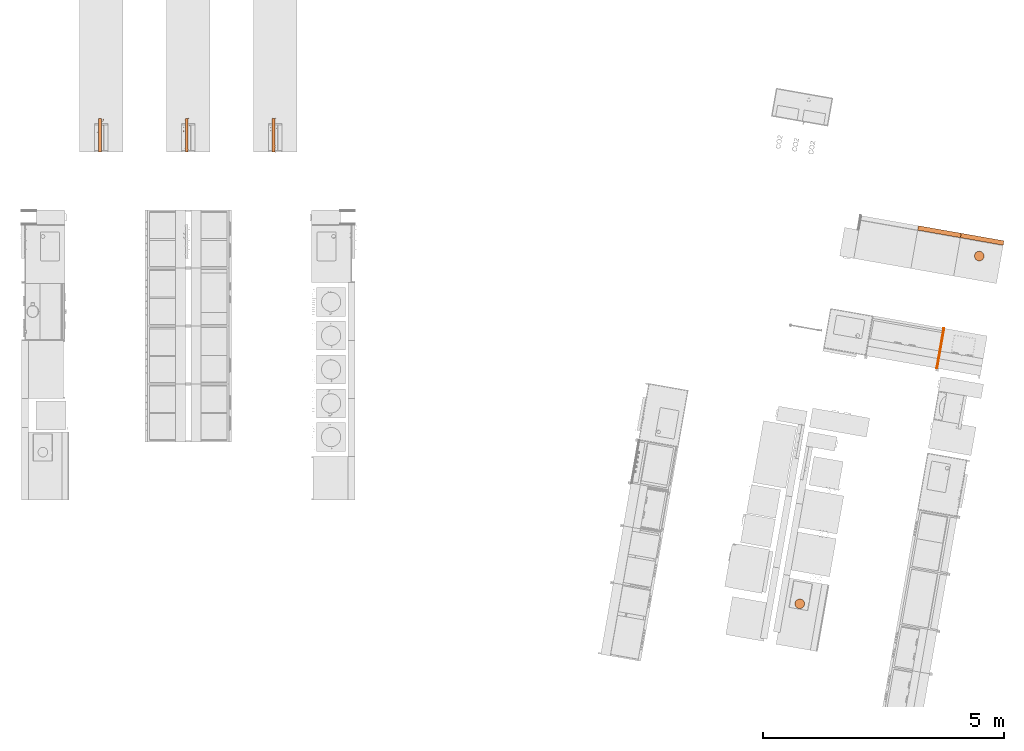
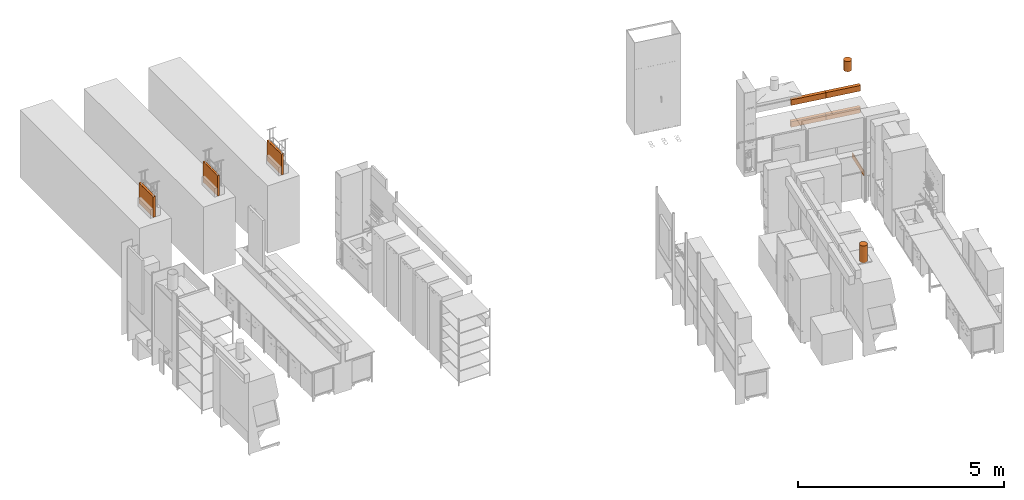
# One storey, part 37 of 43: 10 proxies.
"""IFC2X3 building model written with IfcOpenShell, lengths in metres."""

from ifc_helpers import new_model, entity, si_unit, converted_unit, derived_unit, direction, frame, frame_2d, origin, origin_2d_with_axis, place, context, subcontext, project, spatial, rectangle, circle, extrude, face_set, surface_model, source, transform, mapped, material, type_object, type_shapes, element, save


model = new_model("IFC2X3")

# Units and contexts
model_context = context("Model", 3, precision=1e-05, world=origin(), true_north=direction((6.12303176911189e-17, 1.0)))
body_context = subcontext(model_context, "Body", "Model", "MODEL_VIEW")
ifc_project = project(units=[si_unit("LENGTHUNIT", "METRE"), si_unit("AREAUNIT", "SQUARE_METRE"), si_unit("VOLUMEUNIT", "CUBIC_METRE"), converted_unit("PLANEANGLEUNIT", "DEGREE", entity("IfcRatioMeasure", 0.0174532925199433), si_unit("PLANEANGLEUNIT", "RADIAN"), dimensions=[0, 0, 0, 0, 0, 0, 0]), si_unit("MASSUNIT", "GRAM", prefix="KILO"), derived_unit("MASSDENSITYUNIT", [(si_unit("MASSUNIT", "GRAM", prefix="KILO"), 1), (si_unit("LENGTHUNIT", "METRE"), -3)]), derived_unit("MOMENTOFINERTIAUNIT", [(si_unit("LENGTHUNIT", "METRE"), 4)]), si_unit("TIMEUNIT", "SECOND"), si_unit("FREQUENCYUNIT", "HERTZ"), si_unit("THERMODYNAMICTEMPERATUREUNIT", "DEGREE_CELSIUS"), derived_unit("THERMALTRANSMITTANCEUNIT", [(si_unit("MASSUNIT", "GRAM", prefix="KILO"), 1), (si_unit("THERMODYNAMICTEMPERATUREUNIT", "KELVIN"), -1), (si_unit("TIMEUNIT", "SECOND"), -3)]), derived_unit("VOLUMETRICFLOWRATEUNIT", [(si_unit("LENGTHUNIT", "METRE"), 3), (si_unit("TIMEUNIT", "SECOND"), -1)]), si_unit("ELECTRICCURRENTUNIT", "AMPERE"), si_unit("ELECTRICVOLTAGEUNIT", "VOLT"), si_unit("POWERUNIT", "WATT"), si_unit("FORCEUNIT", "NEWTON", prefix="KILO"), si_unit("ILLUMINANCEUNIT", "LUX"), si_unit("LUMINOUSFLUXUNIT", "LUMEN"), si_unit("LUMINOUSINTENSITYUNIT", "CANDELA"), derived_unit("USERDEFINED", [(si_unit("MASSUNIT", "GRAM", prefix="KILO"), -1), (si_unit("LENGTHUNIT", "METRE"), -2), (si_unit("TIMEUNIT", "SECOND"), 3), (si_unit("LUMINOUSFLUXUNIT", "LUMEN"), 1)]), derived_unit("LINEARVELOCITYUNIT", [(si_unit("LENGTHUNIT", "METRE"), 1), (si_unit("TIMEUNIT", "SECOND"), -1)]), si_unit("PRESSUREUNIT", "PASCAL"), derived_unit("USERDEFINED", [(si_unit("LENGTHUNIT", "METRE"), -2), (si_unit("MASSUNIT", "GRAM", prefix="KILO"), 1), (si_unit("TIMEUNIT", "SECOND"), -2)]), derived_unit("LINEARFORCEUNIT", [(si_unit("MASSUNIT", "GRAM", prefix="KILO"), 1), (si_unit("LENGTHUNIT", "METRE"), 1), (si_unit("TIMEUNIT", "SECOND"), -2), (si_unit("LENGTHUNIT", "METRE"), -1)]), derived_unit("PLANARFORCEUNIT", [(si_unit("MASSUNIT", "GRAM", prefix="KILO"), 1), (si_unit("LENGTHUNIT", "METRE"), 1), (si_unit("TIMEUNIT", "SECOND"), -2), (si_unit("LENGTHUNIT", "METRE"), -2)])], contexts=[model_context])

# Site, building, storey
site_placement = place(None, origin())
site = spatial("IfcSite", under=ifc_project, at=site_placement, Name="Default", CompositionType="ELEMENT")
building_placement = place(site_placement, origin())
building = spatial("IfcBuilding", under=site, at=building_placement, CompositionType="ELEMENT")
storey_placement = place(building_placement, frame((0.0, 0.0, 3.0)))
storey = spatial("IfcBuildingStorey", under=building, at=storey_placement, Name="01 OG", CompositionType="ELEMENT", Elevation=3.0)

# Proxies
ifc_material_1 = material(Name="dh_Weiß")
building_element_proxy_type_1 = type_object("IfcBuildingElementProxyType", Name="dh_Einzel_ Elektrokanal:EK 90", PredefinedType="NOTDEFINED", material=ifc_material_1)
shared_shape_1 = source(origin(), body_context, "Body", "SweptSolid", [
    extrude(rectangle(XDim=0.900000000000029, YDim=0.093, at=frame_2d((-4.16333634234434e-16, -1.73472347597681e-17), x_axis=(1.0, 0.0))), frame((-0.149999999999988, 0.2535, 1.24999999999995)), (0.0, 0.0, 1.0), 0.00499999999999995),
    extrude(rectangle(XDim=0.093, YDim=0.900000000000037, at=frame_2d((0.0155, -8.32667268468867e-17), x_axis=(1.0, 0.0))), frame((-0.149999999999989, 0.269, 1.40999999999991), z_axis=(0.0, 0.0, 1.0), x_axis=(0.0, -1.0, 0.0)), (0.0, 0.0, 1.0), 0.00499999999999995),
    extrude(rectangle(XDim=0.9, YDim=0.093, at=frame_2d((0.0, 1.73472347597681e-17), x_axis=(1.0, 0.0))), frame((-0.15, 0.2535, 1.25499999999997), z_axis=(0.0, 0.0, 1.0), x_axis=(-1.0, 0.0, 0.0)), (0.0, 0.0, 1.0), 0.154999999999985),
])
type_shapes(building_element_proxy_type_1, [shared_shape_1])
for number, where, z_axis, x_axis in (
    (1, (29.2645147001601, 15.6021625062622, 0.0), (0.0, 0.0, 1.0), (0.984807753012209, -0.173648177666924, 0.0)),
    (2, (30.1508416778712, 15.4458791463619, 0.0), (0.0, 0.0, 1.0), (0.984807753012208, -0.17364817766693, 0.0)),
):
    element("IfcBuildingElementProxy", number, at=place(storey_placement, frame(where, z_axis=z_axis, x_axis=x_axis)), inside=storey, type_object=building_element_proxy_type_1, material=ifc_material_1, Name="dh_Einzel_ Elektrokanal:EK 90", ObjectType="dh_Einzel_ Elektrokanal:EK 90", context=body_context, shape_type="MappedRepresentation", body=[
        mapped(shared_shape_1, transform((0.0, 0.0, 0.0), scale=1.0)),
    ])
building_element_proxy_type_2 = type_object("IfcBuildingElementProxyType", Name="dh_Einzel_ Elektrokanal:EK 90", PredefinedType="NOTDEFINED", material=ifc_material_1)
shared_shape_2 = source(origin(), body_context, "Body", "SweptSolid", [
    extrude(rectangle(XDim=0.900000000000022, YDim=0.093, at=frame_2d((1.4432899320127e-15, -1.73472347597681e-17), x_axis=(1.0, 0.0))), frame((-0.149999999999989, 0.2535, 0.599999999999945)), (0.0, 0.0, 1.0), 0.00500000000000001),
    extrude(rectangle(XDim=0.093, YDim=0.90000000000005, at=frame_2d((0.0155, -3.33066907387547e-15), x_axis=(1.0, 0.0))), frame((-0.149999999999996, 0.269, 0.759999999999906), z_axis=(0.0, 0.0, 1.0), x_axis=(0.0, -1.0, 0.0)), (0.0, 0.0, 1.0), 0.00499999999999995),
    extrude(rectangle(XDim=0.9, YDim=0.093, at=frame_2d((0.0, 1.73472347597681e-17), x_axis=(1.0, 0.0))), frame((-0.15, 0.2535, 0.604999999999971), z_axis=(0.0, 0.0, 1.0), x_axis=(-1.0, 0.0, 0.0)), (0.0, 0.0, 1.0), 0.154999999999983),
])
type_shapes(building_element_proxy_type_2, [shared_shape_2])
for number, where, z_axis, x_axis in (
    (3, (29.2645147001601, 15.6021625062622, 0.0), (0.0, 0.0, 1.0), (0.984807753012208, -0.173648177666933, 0.0)),
    (4, (30.1508416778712, 15.4458791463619, 0.0), (0.0, 0.0, 1.0), (0.984807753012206, -0.173648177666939, 0.0)),
):
    element("IfcBuildingElementProxy", number, at=place(storey_placement, frame(where, z_axis=z_axis, x_axis=x_axis)), inside=storey, type_object=building_element_proxy_type_2, material=ifc_material_1, Name="dh_Einzel_ Elektrokanal:EK 90", ObjectType="dh_Einzel_ Elektrokanal:EK 90", context=body_context, shape_type="MappedRepresentation", body=[
        mapped(shared_shape_2, transform((0.0, 0.0, 0.0), scale=1.0)),
    ])
building_element_proxy_type_3 = type_object("IfcBuildingElementProxyType", Name="dh_Blende:dh_Blende", PredefinedType="NOTDEFINED", material=ifc_material_1)
shared_shape_3 = source(origin(), body_context, "Body", "SweptSolid", [
    extrude(rectangle(XDim=0.840000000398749, YDim=0.02, at=origin_2d_with_axis()), frame((0.0, -0.00999999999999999, 0.0), z_axis=(0.0, 0.0, 1.0), x_axis=(-1.0, 0.0, 0.0)), (0.0, 0.0, 1.0), 0.15),
])
type_shapes(building_element_proxy_type_3, [shared_shape_3])
proxy_1_placement = place(storey_placement, frame((29.1918228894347, 13.4622756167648, 0.75), z_axis=(0.0, 0.0, 1.0), x_axis=(-0.17364817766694, -0.984807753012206, 0.0)))
element("IfcBuildingElementProxy", 5, at=proxy_1_placement, inside=storey, type_object=building_element_proxy_type_3, material=ifc_material_1, Name="dh_Blende:dh_Blende", ObjectType="dh_Blende:dh_Blende", context=body_context, shape_type="MappedRepresentation", body=[
    mapped(shared_shape_3, transform((0.0, 0.0, 0.0), scale=1.0)),
])
ifc_material_2 = material(Name="dh_Chrom")
building_element_proxy_type_4 = type_object("IfcBuildingElementProxyType", Name="dh_Geräteabluft:dh_Geräteabluft", PredefinedType="NOTDEFINED", material=ifc_material_2)
shared_shape_4 = source(origin(), body_context, "Body", "SweptSolid", [
    extrude(circle(Radius=0.1, at=frame_2d((-1.25950294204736e-21, -1.69197988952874e-16), x_axis=(1.0, 0.0))), frame((0.0, -0.3, 2.2)), (0.0, 0.0, 1.0), 0.300000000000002),
])
type_shapes(building_element_proxy_type_4, [shared_shape_4])
proxy_2_placement = place(storey_placement, frame((30.0378501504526, 15.6688879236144, 0.0), z_axis=(0.0, 0.0, 1.0), x_axis=(0.984807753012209, -0.173648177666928, 0.0)))
element("IfcBuildingElementProxy", 6, at=proxy_2_placement, inside=storey, type_object=building_element_proxy_type_4, material=ifc_material_2, Name="dh_Geräteabluft:dh_Geräteabluft", ObjectType="dh_Geräteabluft:dh_Geräteabluft", context=body_context, shape_type="MappedRepresentation", body=[
    mapped(shared_shape_4, transform((0.0, 0.0, 0.0), scale=1.0)),
])
building_element_proxy_type_5 = type_object("IfcBuildingElementProxyType", Name="dh_Geräteabluft:dh_Geräteabluft", PredefinedType="NOTDEFINED", material=ifc_material_2)
shared_shape_5 = source(origin(), body_context, "Body", "SweptSolid", [
    extrude(circle(Radius=0.1, at=frame_2d((-1.25950294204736e-21, -1.69197988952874e-16), x_axis=(1.0, 0.0))), frame((0.0, -0.3, 2.2)), (0.0, 0.0, 1.0), 0.500000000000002),
])
type_shapes(building_element_proxy_type_5, [shared_shape_5])
proxy_3_placement = place(storey_placement, frame((25.972889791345, 8.22162015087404, 0.0), z_axis=(0.0, 0.0, 1.0), x_axis=(0.173648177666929, 0.984807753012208, 0.0)))
element("IfcBuildingElementProxy", 7, at=proxy_3_placement, inside=storey, type_object=building_element_proxy_type_5, material=ifc_material_2, Name="dh_Geräteabluft:dh_Geräteabluft", ObjectType="dh_Geräteabluft:dh_Geräteabluft", context=body_context, shape_type="MappedRepresentation", body=[
    mapped(shared_shape_5, transform((0.0, 0.0, 0.0), scale=1.0)),
])
ifc_material_3 = material(Name="dh_Stellfläche")
building_element_proxy_type_6 = type_object("IfcBuildingElementProxyType", Name="dh_Gerät_Stellfläche Bestand:Nutzergerät", PredefinedType="NOTDEFINED", material=ifc_material_3)
shared_shape_6 = source(origin(), body_context, "Body", "SurfaceModel", [
    surface_model("IfcFaceBasedSurfaceModel", [(-0.355113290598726, -0.0453817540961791, 0.615000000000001), (-0.35670056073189, -0.0470458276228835, 0.615000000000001), (-0.346946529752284, -0.0567998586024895, 0.615000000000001), (-0.332277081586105, -0.0616384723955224, 0.615000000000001), (-0.312948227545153, -0.0616384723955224, 0.615000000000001), (-0.298278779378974, -0.0567998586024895, 0.615000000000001), (-0.288166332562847, -0.0466618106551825, 0.615000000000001), (-0.288166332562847, -0.0314547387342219, 0.615000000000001), (-0.29308174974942, -0.0214446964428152, 0.615000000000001), (-0.298073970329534, -0.0163500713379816, 0.615000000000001), (-0.30790480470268, -0.0115114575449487, 0.615000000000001), (-0.336450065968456, -0.00188543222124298, 0.615000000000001), (-0.345692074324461, 0.00295318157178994, 0.615000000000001), (-0.350197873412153, 0.00745898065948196, 0.615000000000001), (-0.354857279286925, 0.0166497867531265, 0.615000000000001), (-0.354857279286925, 0.0255845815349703, 0.615000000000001), (-0.345820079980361, 0.0347241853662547, 0.615000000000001), (-0.331944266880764, 0.0393579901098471, 0.615000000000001), (-0.313204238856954, 0.0393579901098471, 0.615000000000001), (-0.299328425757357, 0.0347241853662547, 0.615000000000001), (-0.290112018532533, 0.0252005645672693, 0.615000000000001), (-0.288447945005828, 0.0268646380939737, 0.615000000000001), (-0.298278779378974, 0.0366186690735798, 0.615000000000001), (-0.312948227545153, 0.041585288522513, 0.615000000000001), (-0.332277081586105, 0.041585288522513, 0.615000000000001), (-0.346946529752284, 0.0366186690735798, 0.615000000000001), (-0.356982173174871, 0.0264550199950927, 0.615000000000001), (-0.356982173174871, 0.016112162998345, 0.615000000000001), (-0.352117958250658, 0.00610212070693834, 0.615000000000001), (-0.347074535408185, 0.00100749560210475, 0.615000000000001), (-0.337243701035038, -0.00383111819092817, 0.615000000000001), (-0.308698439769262, -0.0134571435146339, 0.615000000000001), (-0.299456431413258, -0.0182957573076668, 0.615000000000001), (-0.294950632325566, -0.0228015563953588, 0.615000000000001), (-0.290368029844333, -0.0320691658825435, 0.615000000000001), (-0.290368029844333, -0.0457657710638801, 0.615000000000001), (-0.299328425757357, -0.0549053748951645, 0.615000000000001), (-0.313204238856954, -0.0595647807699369, 0.615000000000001), (-0.331944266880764, -0.0595647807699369, 0.615000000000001), (-0.345820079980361, -0.0549053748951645, 0.615000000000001), (-0.230691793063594, -0.0616384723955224, 0.615000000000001), (-0.230691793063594, -0.0595647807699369, 0.615000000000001), (-0.239908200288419, -0.0595647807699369, 0.615000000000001), (-0.248740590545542, -0.055084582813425, 0.615000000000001), (-0.253399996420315, -0.0413879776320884, 0.615000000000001), (-0.253399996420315, 0.00533408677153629, 0.615000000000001), (-0.235402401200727, 0.00533408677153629, 0.615000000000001), (-0.235402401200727, 0.00745898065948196, 0.615000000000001), (-0.253399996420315, 0.00745898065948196, 0.615000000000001), (-0.253399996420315, 0.0399468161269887, 0.615000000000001), (-0.25557609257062, 0.0399468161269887, 0.615000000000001), (-0.25557609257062, 0.00745898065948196, 0.615000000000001), (-0.268735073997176, 0.00745898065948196, 0.615000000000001), (-0.268735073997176, 0.00533408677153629, 0.615000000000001), (-0.25557609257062, 0.00533408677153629, 0.615000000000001), (-0.25557609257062, -0.0416439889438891, 0.615000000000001), (-0.250660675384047, -0.0566974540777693, 0.615000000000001), (-0.2404458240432, -0.0616384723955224, 0.615000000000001), (-0.201327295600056, -0.0599999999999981, 0.615000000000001), (-0.19920240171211, -0.0599999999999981, 0.615000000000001), (-0.19920240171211, 0.00666534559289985, 0.615000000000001), (-0.201327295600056, 0.00666534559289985, 0.615000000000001), (-0.173294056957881, -0.0922318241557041, 0.615000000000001), (-0.173294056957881, -0.0944079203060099, 0.615000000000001), (-0.163744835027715, -0.0944079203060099, 0.615000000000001), (-0.153581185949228, -0.0893644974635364, 0.615000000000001), (-0.148665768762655, -0.0744390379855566, 0.615000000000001), (-0.148665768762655, 0.00651173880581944, 0.615000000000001), (-0.150867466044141, 0.00651173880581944, 0.615000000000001), (-0.150867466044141, -0.0741574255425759, 0.615000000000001), (-0.155501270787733, -0.087700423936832, 0.615000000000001), (-0.164333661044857, -0.0922318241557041, 0.615000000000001), (-0.100049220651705, -0.0875980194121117, 0.615000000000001), (-0.101175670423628, -0.0895181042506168, 0.615000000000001), (-0.0913448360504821, -0.0944079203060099, 0.615000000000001), (-0.0765473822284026, -0.0944079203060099, 0.615000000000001), (-0.0666397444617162, -0.0895181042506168, 0.615000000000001), (-0.0615963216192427, -0.0843466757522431, 0.615000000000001), (-0.0566809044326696, -0.069728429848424, 0.615000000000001), (-0.0566809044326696, 0.00615332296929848, 0.615000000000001), (-0.0588826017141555, 0.00615332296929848, 0.615000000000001), (-0.0588826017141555, -0.00552079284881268, 0.615000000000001), (-0.0666397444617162, 0.0023387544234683, 0.615000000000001), (-0.0765473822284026, 0.00717736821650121, 0.615000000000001), (-0.0913448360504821, 0.00717736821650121, 0.615000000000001), (-0.101303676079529, 0.0023387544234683, 0.615000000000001), (-0.111057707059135, -0.00756888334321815, 0.615000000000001), (-0.115973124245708, -0.0221871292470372, 0.615000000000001), (-0.115973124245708, -0.0319923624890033, 0.615000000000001), (-0.111057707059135, -0.0465850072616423, 0.615000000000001), (-0.101303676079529, -0.0564926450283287, 0.615000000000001), (-0.0913448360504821, -0.0612544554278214, 0.615000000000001), (-0.0765473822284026, -0.0612544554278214, 0.615000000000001), (-0.0666397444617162, -0.0564926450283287, 0.615000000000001), (-0.0588826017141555, -0.0485818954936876, 0.615000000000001), (-0.0588826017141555, -0.0694724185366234, 0.615000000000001), (-0.0634652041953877, -0.0832970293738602, 0.615000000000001), (-0.0679710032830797, -0.0875980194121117, 0.615000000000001), (-0.077059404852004, -0.0922318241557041, 0.615000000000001), (-0.0908072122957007, -0.0922318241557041, 0.615000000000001), (-0.0588826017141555, -0.0452537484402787, 0.615000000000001), (-0.0679710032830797, -0.0542909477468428, 0.615000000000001), (-0.077059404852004, -0.0588735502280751, 0.615000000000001), (-0.0908072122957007, -0.0588735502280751, 0.615000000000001), (-0.099921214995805, -0.0542909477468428, 0.615000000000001), (-0.10921442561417, -0.0451257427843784, 0.615000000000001), (-0.113797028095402, -0.0312499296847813, 0.615000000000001), (-0.113797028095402, -0.0220079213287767, 0.615000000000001), (-0.10921442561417, -0.00813210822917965, 0.615000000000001), (-0.099921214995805, 0.000956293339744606, 0.615000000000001), (-0.0908072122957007, 0.00561569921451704, 0.615000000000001), (-0.077059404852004, 0.00561569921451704, 0.615000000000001), (-0.0679710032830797, 0.000956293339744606, 0.615000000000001), (-0.0588826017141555, -0.00800410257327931, 0.615000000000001), (-0.0178183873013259, -0.0599999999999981, 0.615000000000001), (-0.0156934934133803, -0.0599999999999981, 0.615000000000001), (-0.0156934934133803, -0.0413367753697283, 0.615000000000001), (0.00230410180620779, -0.0235439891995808, 0.615000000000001), (0.0347919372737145, -0.0599999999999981, 0.615000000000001), (0.0364560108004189, -0.0587455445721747, 0.615000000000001), (0.00376336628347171, -0.0214958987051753, 0.615000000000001), (0.0316685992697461, 0.00625572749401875, 0.615000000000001), (0.0300813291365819, 0.00784299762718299, 0.615000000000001), (-0.0156934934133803, -0.0379574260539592, 0.615000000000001), (-0.0156934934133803, 0.0399468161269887, 0.615000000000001), (-0.0178183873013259, 0.0399468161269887, 0.615000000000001), (0.120146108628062, -0.0469178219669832, 0.615000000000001), (0.125061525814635, -0.0322227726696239, 0.615000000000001), (0.125061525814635, -0.0223663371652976, 0.615000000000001), (0.120146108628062, -0.00767128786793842, 0.615000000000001), (0.110315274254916, 0.00231315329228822, 0.615000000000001), (0.10040763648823, 0.00717736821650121, 0.615000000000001), (0.0856101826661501, 0.00717736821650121, 0.615000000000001), (0.0756513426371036, 0.00231315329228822, 0.615000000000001), (0.0658973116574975, -0.00767128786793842, 0.615000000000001), (0.0609818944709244, -0.0223663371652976, 0.615000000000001), (0.0609818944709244, -0.0322227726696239, 0.615000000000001), (0.0658973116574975, -0.0469178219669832, 0.615000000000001), (0.0756513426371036, -0.0568510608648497, 0.615000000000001), (0.0856101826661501, -0.0616384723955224, 0.615000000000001), (0.10040763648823, -0.0616384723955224, 0.615000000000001), (0.110315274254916, -0.0568510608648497, 0.615000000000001), (0.118200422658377, -0.0451257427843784, 0.615000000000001), (0.108984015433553, -0.0542909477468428, 0.615000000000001), (0.0998956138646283, -0.0588735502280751, 0.615000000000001), (0.0861478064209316, -0.0588735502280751, 0.615000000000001), (0.0770338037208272, -0.0542909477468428, 0.615000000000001), (0.0677405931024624, -0.0451257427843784, 0.615000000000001), (0.0631579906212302, -0.0312499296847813, 0.615000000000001), (0.0631579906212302, -0.0220079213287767, 0.615000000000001), (0.0677405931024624, -0.00813210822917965, 0.615000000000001), (0.0770338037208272, 0.000956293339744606, 0.615000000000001), (0.0861478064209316, 0.00561569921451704, 0.615000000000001), (0.0998956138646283, 0.00561569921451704, 0.615000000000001), (0.108984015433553, 0.000956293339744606, 0.615000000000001), (0.118200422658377, -0.00813210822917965, 0.615000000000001), (0.12285982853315, -0.0220079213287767, 0.615000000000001), (0.12285982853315, -0.0312499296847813, 0.615000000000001), (0.159136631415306, -0.0599999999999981, 0.615000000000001), (0.161261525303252, -0.0599999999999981, 0.615000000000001), (0.161261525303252, -0.0413367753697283, 0.615000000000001), (0.17925912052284, -0.0235439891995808, 0.615000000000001), (0.211746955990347, -0.0599999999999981, 0.615000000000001), (0.213411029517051, -0.0587455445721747, 0.615000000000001), (0.180718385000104, -0.0214958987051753, 0.615000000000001), (0.208623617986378, 0.00625572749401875, 0.615000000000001), (0.207036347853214, 0.00784299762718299, 0.615000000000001), (0.161261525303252, -0.0379574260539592, 0.615000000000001), (0.161261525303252, 0.0399468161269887, 0.615000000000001), (0.159136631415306, 0.0399468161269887, 0.615000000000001), (0.296973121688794, -0.0471994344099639, 0.615000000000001), (0.29530904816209, -0.0455353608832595, 0.615000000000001), (0.285939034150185, -0.0549821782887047, 0.615000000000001), (0.276850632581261, -0.0595647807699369, 0.615000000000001), (0.263102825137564, -0.0595647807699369, 0.615000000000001), (0.25398882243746, -0.0549821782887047, 0.615000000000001), (0.244695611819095, -0.0457913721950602, 0.615000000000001), (0.240113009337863, -0.0318899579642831, 0.615000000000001), (0.240113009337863, -0.0236463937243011, 0.615000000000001), (0.297229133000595, -0.0236463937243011, 0.615000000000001), (0.297229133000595, -0.0127147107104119, 0.615000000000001), (0.292313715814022, -0.00273026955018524, 0.615000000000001), (0.287270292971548, 0.00231315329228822, 0.615000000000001), (0.277362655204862, 0.00717736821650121, 0.615000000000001), (0.262565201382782, 0.00717736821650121, 0.615000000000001), (0.252606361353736, 0.00231315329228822, 0.615000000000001), (0.24285233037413, -0.00767128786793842, 0.615000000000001), (0.237936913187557, -0.0223663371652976, 0.615000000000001), (0.237936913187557, -0.0322227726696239, 0.615000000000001), (0.24285233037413, -0.0469178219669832, 0.615000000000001), (0.252606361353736, -0.0568510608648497, 0.615000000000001), (0.262565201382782, -0.0616384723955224, 0.615000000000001), (0.277362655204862, -0.0616384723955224, 0.615000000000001), (0.287270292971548, -0.0568510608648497, 0.615000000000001), (0.240522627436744, -0.0214446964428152, 0.615000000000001), (0.244695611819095, -0.00874653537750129, 0.615000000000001), (0.25398882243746, 0.000341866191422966, 0.615000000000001), (0.263102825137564, 0.0050012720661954, 0.615000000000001), (0.276850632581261, 0.0050012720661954, 0.615000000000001), (0.285939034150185, 0.000341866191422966, 0.615000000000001), (0.290444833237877, -0.00416393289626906, 0.615000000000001), (0.295027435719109, -0.0132779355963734, 0.615000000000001), (0.295027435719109, -0.0214446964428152, 0.615000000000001), (0.331176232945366, -0.0599999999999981, 0.615000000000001), (0.333301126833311, -0.0599999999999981, 0.615000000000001), (0.333301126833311, -0.0223407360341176, 0.615000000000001), (0.337960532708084, -0.00856732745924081, 0.615000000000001), (0.347202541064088, 0.000469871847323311, 0.615000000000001), (0.356342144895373, 0.00507807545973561, 0.615000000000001), (0.37037156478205, 0.00507807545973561, 0.615000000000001), (0.37037156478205, 0.00717736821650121, 0.615000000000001), (0.355753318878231, 0.00717736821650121, 0.615000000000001), (0.345871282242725, 0.00236435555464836, 0.615000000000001), (0.336040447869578, -0.00751768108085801, 0.615000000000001), (0.333301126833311, -0.0156076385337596, 0.615000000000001), (0.333301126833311, 0.00630692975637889, 0.615000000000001), (0.331176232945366, 0.00630692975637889, 0.615000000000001), (-0.149792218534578, 0.0291175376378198, 0.615000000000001), (-0.143494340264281, 0.0353386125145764, 0.615000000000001), (-0.149792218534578, 0.041585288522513, 0.615000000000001), (-0.156038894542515, 0.0353386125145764, 0.615000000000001), (-0.149792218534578, 0.0319592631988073, 0.615000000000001), (-0.153043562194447, 0.035210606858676, 0.615000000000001), (-0.149792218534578, 0.0384875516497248, 0.615000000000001), (-0.146464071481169, 0.035210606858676, 0.615000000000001), (-0.200252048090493, 0.0291175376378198, 0.615000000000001), (-0.194005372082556, 0.0353386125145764, 0.615000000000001), (-0.200252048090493, 0.041585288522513, 0.615000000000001), (-0.206498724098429, 0.0353386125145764, 0.615000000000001), (-0.200252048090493, 0.0319592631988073, 0.615000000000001), (-0.203503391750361, 0.035210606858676, 0.615000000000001), (-0.200252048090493, 0.0384875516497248, 0.615000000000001), (-0.197000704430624, 0.035210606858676, 0.615000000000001), (0.35, 0.0, 0.61), (0.35, -0.06, 0.61), (-0.35, -0.06, 0.61), (-0.35, 0.0, 0.61), (0.35, 0.0, 0.0), (0.35, -0.06, 0.0), (-0.35, -0.06, 0.0), (-0.35, 0.0, 0.0)], [face_set([[[0, 1, 2, 3, 4, 5, 6, 7, 8, 9, 10, 11, 12, 13, 14, 15, 16, 17, 18, 19, 20, 21, 22, 23, 24, 25, 26, 27, 28, 29, 30, 31, 32, 33, 34, 35, 36, 37, 38, 39]]]), face_set([[[40, 41, 42, 43, 44, 45, 46, 47, 48, 49, 50, 51, 52, 53, 54, 55, 56, 57]]]), face_set([[[58, 59, 60, 61]]]), face_set([[[62, 63, 64, 65, 66, 67, 68, 69, 70, 71]]]), face_set([[[72, 73, 74, 75, 76, 77, 78, 79, 80, 81, 82, 83, 84, 85, 86, 87, 88, 89, 90, 91, 92, 93, 94, 95, 96, 97, 98, 99], [100, 101, 102, 103, 104, 105, 106, 107, 108, 109, 110, 111, 112, 113]]]), face_set([[[114, 115, 116, 117, 118, 119, 120, 121, 122, 123, 124, 125]]]), face_set([[[126, 127, 128, 129, 130, 131, 132, 133, 134, 135, 136, 137, 138, 139, 140, 141], [142, 143, 144, 145, 146, 147, 148, 149, 150, 151, 152, 153, 154, 155, 156, 157]]]), face_set([[[158, 159, 160, 161, 162, 163, 164, 165, 166, 167, 168, 169]]]), face_set([[[170, 171, 172, 173, 174, 175, 176, 177, 178, 179, 180, 181, 182, 183, 184, 185, 186, 187, 188, 189, 190, 191, 192, 193], [194, 195, 196, 197, 198, 199, 200, 201, 202]]]), face_set([[[203, 204, 205, 206, 207, 208, 209, 210, 211, 212, 213, 214, 215, 216]]]), face_set([[[217, 218, 219, 220], [221, 222, 223, 224]]]), face_set([[[225, 226, 227, 228], [229, 230, 231, 232]]]), face_set([[[233, 234, 235, 236]], [[237, 238, 239, 240]], [[236, 233, 237, 240]], [[235, 236, 240, 239]], [[234, 238, 239, 235]], [[233, 234, 238, 237]]])]),
])
type_shapes(building_element_proxy_type_6, [shared_shape_6])
for number, where, z_axis, x_axis, name in (
    (8, (15.4, 17.8740000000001, 2.89), (0.0, 0.0, 1.0), (0.0, -1.0, 0.0), "dh_Gerät_Stellfläche Bestand:Nutzergerät"),
    (9, (13.6000000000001, 17.8740000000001, 2.89), (0.0, 0.0, 1.0), (0.0, -1.0, 0.0), "dh_Gerät_Stellfläche Bestand:Nutzergerät"),
    (10, (11.8, 17.8740000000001, 2.89), (0.0, 0.0, 1.0), (0.0, -1.0, 0.0), "dh_Gerät_Stellfläche Bestand:Nutzergerät"),
):
    element("IfcBuildingElementProxy", number, at=place(storey_placement, frame(where, z_axis=z_axis, x_axis=x_axis)), inside=storey, type_object=building_element_proxy_type_6, material=ifc_material_3, Name=name, ObjectType="dh_Gerät_Stellfläche Bestand:Nutzergerät", context=body_context, shape_type="MappedRepresentation", body=[
        mapped(shared_shape_6, transform((0.0, 0.0, 0.0), scale=1.0)),
    ])

save(model, "model.ifc")
